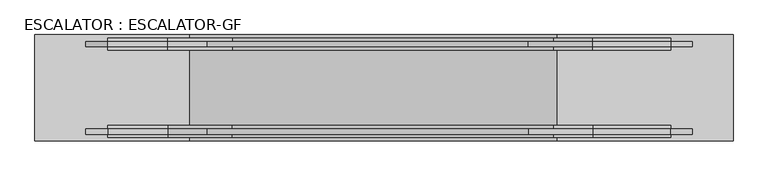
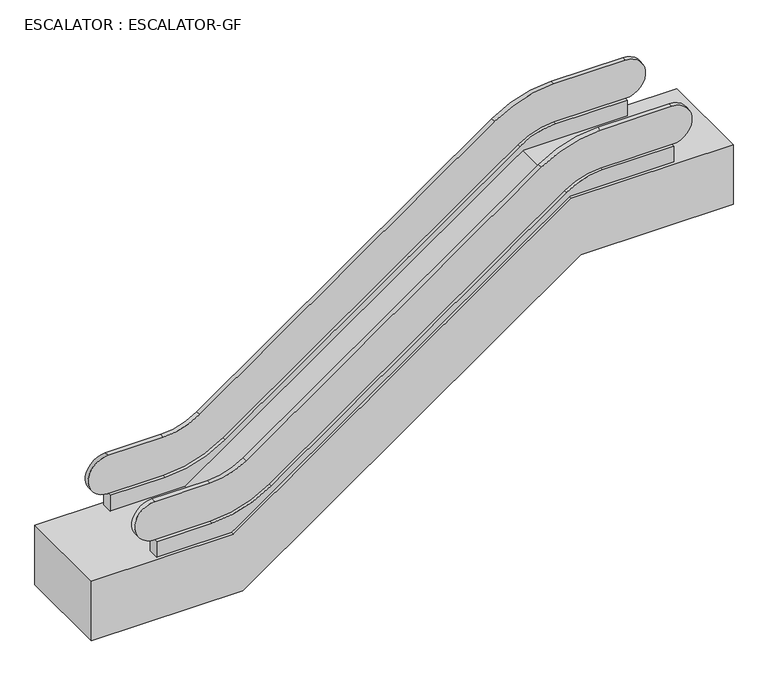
"""IFC4 building model written with IfcOpenShell, lengths in millimetres: proxy geometry, ESCALATOR : ESCALATOR-GF."""

from ifc_helpers import new_model, si_unit, point, frame, frame_2d, origin, place, context, project, spatial, polyline, circle_curve, trimmed, segment, composite_curve, outline, extrude, source, transform, mapped, element, save


def escalator_escalator_gf_c0f03a61(model_context):
    return source(origin(), model_context, "Body", "SweptSolid", [
        extrude(outline(composite_curve([segment(polyline([(4332.1241124, -4101.0294463), (1059.093828, -8774.9166924)]), True, "CONTINUOUS"), segment(trimmed(circle_curve(frame_2d((2400.0, -9713.9266167)), 1637.0), [point((1059.093828, -8774.9166924))], [point((763.0, -9713.9266167))], True, "CARTESIAN"), True, "CONTINUOUS"), segment(polyline([(763.0, -9713.9266167), (763.0, -10588.6153082), (500.0, -10588.6153082), (500.0, -9398.970123), (4250.0, -4043.970123), (4250.0, -2394.6153082), (4513.0, -2394.6153082), (4513.0, -3527.4131211)]), True, "CONTINUOUS"), segment(trimmed(circle_curve(frame_2d((3513.0, -3527.4131211)), 1000.0), [point((4513.0, -3527.4131211))], [point((4332.1241124, -4101.0294463))], False, "CARTESIAN"), True, "CONTINUOUS")], self_intersect=False)), frame((0.0, -725.0, 0.0), z_axis=(0.0, 1.0, 0.0), x_axis=(0.0, 0.0, 1.0)), (0.0, 0.0, 1.0), 175.0),
        extrude(outline(composite_curve([segment(polyline([(5150.0, -2394.6153082), (5150.0, -3527.4131211)]), True, "CONTINUOUS"), segment(trimmed(circle_curve(frame_2d((3513.0, -3527.4131211)), 1637.0), [point((5150.0, -3527.4131211))], [point((4853.906172, -4466.4230455))], False, "CARTESIAN"), True, "CONTINUOUS"), segment(polyline([(4853.906172, -4466.4230455), (1580.8758876, -9140.3102915)]), True, "CONTINUOUS"), segment(trimmed(circle_curve(frame_2d((2400.0, -9713.9266167)), 1000.0), [point((1580.8758876, -9140.3102915))], [point((1400.0, -9713.9266167))], True, "CARTESIAN"), True, "CONTINUOUS"), segment(polyline([(1400.0, -9713.9266167), (1400.0, -10588.6153082)]), True, "CONTINUOUS"), segment(trimmed(circle_curve(frame_2d((1081.5, -10588.6153082)), 318.5), [point((1400.0, -10588.6153082))], [point((763.0, -10588.6153082))], False, "CARTESIAN"), True, "CONTINUOUS"), segment(polyline([(763.0, -10588.6153082), (763.0, -9713.9266167)]), True, "CONTINUOUS"), segment(trimmed(circle_curve(frame_2d((2400.0, -9713.9266167)), 1637.0), [point((763.0, -9713.9266167))], [point((1059.093828, -8774.9166924))], False, "CARTESIAN"), True, "CONTINUOUS"), segment(polyline([(1059.093828, -8774.9166924), (4332.1241124, -4101.0294463)]), True, "CONTINUOUS"), segment(trimmed(circle_curve(frame_2d((3513.0, -3527.4131211)), 1000.0), [point((4332.1241124, -4101.0294463))], [point((4513.0, -3527.4131211))], True, "CARTESIAN"), True, "CONTINUOUS"), segment(polyline([(4513.0, -3527.4131211), (4513.0, -2394.6153082)]), True, "CONTINUOUS"), segment(trimmed(circle_curve(frame_2d((4831.5, -2394.6153082)), 318.5), [point((4513.0, -2394.6153082))], [point((5150.0, -2394.6153082))], False, "CARTESIAN"), True, "CONTINUOUS")], self_intersect=False)), frame((0.0, -675.0, 0.0), z_axis=(0.0, 1.0, 0.0), x_axis=(0.0, 0.0, 1.0)), (0.0, 0.0, 1.0), 75.0),
        extrude(outline(composite_curve([segment(polyline([(5150.0, -2394.6153082), (5150.0, -3527.4131211)]), True, "CONTINUOUS"), segment(trimmed(circle_curve(frame_2d((3513.0, -3527.4131211)), 1637.0), [point((5150.0, -3527.4131211))], [point((4853.906172, -4466.4230455))], False, "CARTESIAN"), True, "CONTINUOUS"), segment(polyline([(4853.906172, -4466.4230455), (1580.8758876, -9140.3102915)]), True, "CONTINUOUS"), segment(trimmed(circle_curve(frame_2d((2400.0, -9713.9266167)), 1000.0), [point((1580.8758876, -9140.3102915))], [point((1400.0, -9713.9266167))], True, "CARTESIAN"), True, "CONTINUOUS"), segment(polyline([(1400.0, -9713.9266167), (1400.0, -10588.6153082)]), True, "CONTINUOUS"), segment(trimmed(circle_curve(frame_2d((1081.5, -10588.6153082)), 318.5), [point((1400.0, -10588.6153082))], [point((763.0, -10588.6153082))], False, "CARTESIAN"), True, "CONTINUOUS"), segment(polyline([(763.0, -10588.6153082), (763.0, -9713.9266167)]), True, "CONTINUOUS"), segment(trimmed(circle_curve(frame_2d((2400.0, -9713.9266167)), 1637.0), [point((763.0, -9713.9266167))], [point((1059.093828, -8774.9166924))], False, "CARTESIAN"), True, "CONTINUOUS"), segment(polyline([(1059.093828, -8774.9166924), (4332.1241124, -4101.0294463)]), True, "CONTINUOUS"), segment(trimmed(circle_curve(frame_2d((3513.0, -3527.4131211)), 1000.0), [point((4332.1241124, -4101.0294463))], [point((4513.0, -3527.4131211))], True, "CARTESIAN"), True, "CONTINUOUS"), segment(polyline([(4513.0, -3527.4131211), (4513.0, -2394.6153082)]), True, "CONTINUOUS"), segment(trimmed(circle_curve(frame_2d((4831.5, -2394.6153082)), 318.5), [point((4513.0, -2394.6153082))], [point((5150.0, -2394.6153082))], False, "CARTESIAN"), True, "CONTINUOUS")], self_intersect=False)), frame((0.0, 600.0, 0.0), z_axis=(0.0, 1.0, 0.0), x_axis=(0.0, 0.0, 1.0)), (0.0, 0.0, 1.0), 75.0),
        extrude(outline(composite_curve([segment(polyline([(4332.1241124, -4101.0294463), (1059.093828, -8774.9166924)]), True, "CONTINUOUS"), segment(trimmed(circle_curve(frame_2d((2400.0, -9713.9266167)), 1637.0), [point((1059.093828, -8774.9166924))], [point((763.0, -9713.9266167))], True, "CARTESIAN"), True, "CONTINUOUS"), segment(polyline([(763.0, -9713.9266167), (763.0, -10588.6153082), (500.0, -10588.6153082), (500.0, -9398.970123), (4250.0, -4043.970123), (4250.0, -2394.6153082), (4513.0, -2394.6153082), (4513.0, -3527.4131211)]), True, "CONTINUOUS"), segment(trimmed(circle_curve(frame_2d((3513.0, -3527.4131211)), 1000.0), [point((4513.0, -3527.4131211))], [point((4332.1241124, -4101.0294463))], False, "CARTESIAN"), True, "CONTINUOUS")], self_intersect=False)), frame((0.0, 550.0, 0.0), z_axis=(0.0, 1.0, 0.0), x_axis=(0.0, 0.0, 1.0)), (0.0, 0.0, 1.0), 175.0),
        extrude(outline(polyline([(4250.0, -1484.1153082), (4250.0, -4043.970123), (500.0, -9398.970123), (500.0, -11648.970123), (-500.0, -11648.970123), (-500.0, -9249.2604934), (3250.0, -3894.2604934), (3250.0, -1484.1153082), (4250.0, -1484.1153082)])), frame((0.0, -775.0, 0.0), z_axis=(0.0, 1.0, 0.0), x_axis=(0.0, 0.0, 1.0)), (0.0, 0.0, 1.0), 1550.0),
    ])


if __name__ == "__main__":
    model = new_model("IFC4")
    model_context = context("Model", 3, world=origin())
    ifc_project = project(units=[si_unit("LENGTHUNIT", "METRE", prefix="MILLI")], contexts=[model_context])
    site = spatial("IfcSite", under=ifc_project)
    building = spatial("IfcBuilding", under=site)
    placement = place(None, origin())
    escalator_escalator_gf_shape = escalator_escalator_gf_c0f03a61(model_context)
    element("IfcBuildingElementProxy", 1, Name="ESCALATOR : ESCALATOR-GF", ObjectType="ESCALATOR : ESCALATOR-GF", at=placement, inside=building, context=model_context, shape_type="MappedRepresentation", body=[
        mapped(escalator_escalator_gf_shape, transform((0.0, 0.0, 0.0), x_axis=(1.0, 0.0, 0.0), y_axis=(0.0, 1.0, 0.0), z_axis=(0.0, 0.0, 1.0))),
    ])
    save(model, "model.ifc")
